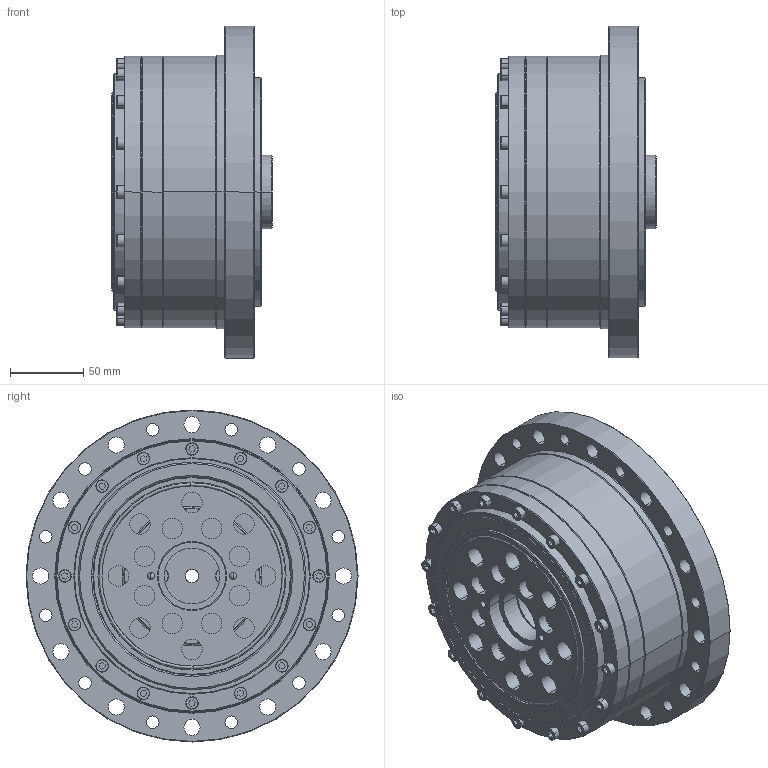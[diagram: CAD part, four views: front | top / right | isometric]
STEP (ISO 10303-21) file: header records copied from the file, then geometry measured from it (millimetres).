
FILE_DESCRIPTION (( 'STEP AP203' ), '1' );
FILE_NAME ('FCS-58-XXX-AJ.STEP', '2023-01-16T08:46:21', ( '微软用户' ), ( '微软中国' ), 'SwSTEP 2.0', 'SolidWorks 2016', '' );
FILE_SCHEMA (( 'CONFIG_CONTROL_DESIGN' ));
Length unit declared in the file: millimetre
Products named in the file (1): FCS-58-XXX-AJ
Bounding box: 109.5 x 226 x 226 mm (x, y, z)
Volume: 1906798.9 mm3; surface area: 580060.1 mm2
Topology: 65 solids, 66 shells, 1237 faces, 2918 edges, 1821 vertices
Faces by surface type: cylinder 502, plane 363, cone 186, torus 136, sphere 50
Entity records: 35084 total; most frequent: DIRECTION 6787, CARTESIAN_POINT 5765, ORIENTED_EDGE 5526, AXIS2_PLACEMENT_3D 2790, EDGE_CURVE 2763, VERTEX_POINT 1752, CIRCLE 1552, EDGE_LOOP 1523
